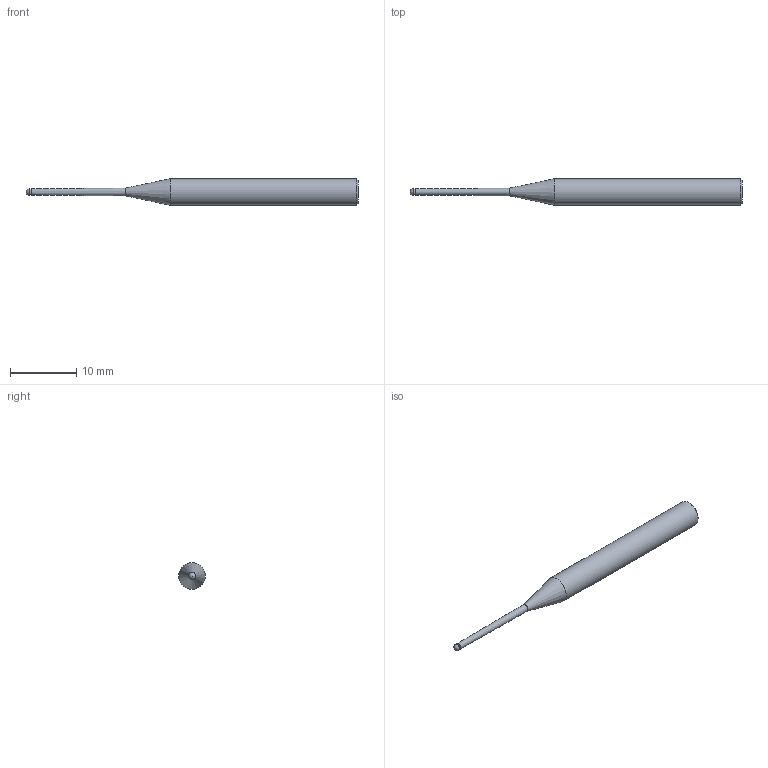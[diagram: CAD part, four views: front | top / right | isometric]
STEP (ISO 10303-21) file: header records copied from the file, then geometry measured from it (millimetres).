
FILE_DESCRIPTION(/* description */ (''),/* implementation_level */ '2;1');
FILE_NAME(/* name */ 'HGXPB2010-15-T0.4 0450.stp',/* time_stamp */ '2026-01-22T08:56:55+08:00',/* author */ (''),/* organization */ (''),/* preprocessor_version */ 'ST-DEVELOPER v16',/* originating_system */ 'SIEMENS PLM Software NX 10.0',/* authorisation */ '');
FILE_SCHEMA (('CONFIG_CONTROL_DESIGN'));
Length unit declared in the file: millimetre
Products named in the file (1): HGXPB2010-15-T0.4 0450_x_t
Bounding box: 50 x 4 x 4 mm (x, y, z)
Volume: 406.6 mm3; surface area: 471.4 mm2
Topology: 1 solids, 1 shells, 9 faces, 18 edges, 11 vertices
Faces by surface type: cylinder 3, cone 3, plane 2, sphere 1
Full cylindrical faces by diameter (mm): 0.95 x1, 1 x1, 4 x1
Entity records: 264 total; most frequent: CARTESIAN_POINT 35, DIRECTION 34, AXIS2_PLACEMENT_3D 17, EDGE_LOOP 16, ORIENTED_EDGE 16, FACE_BOUND 14, ADVANCED_FACE 9, VERTEX_POINT 8
